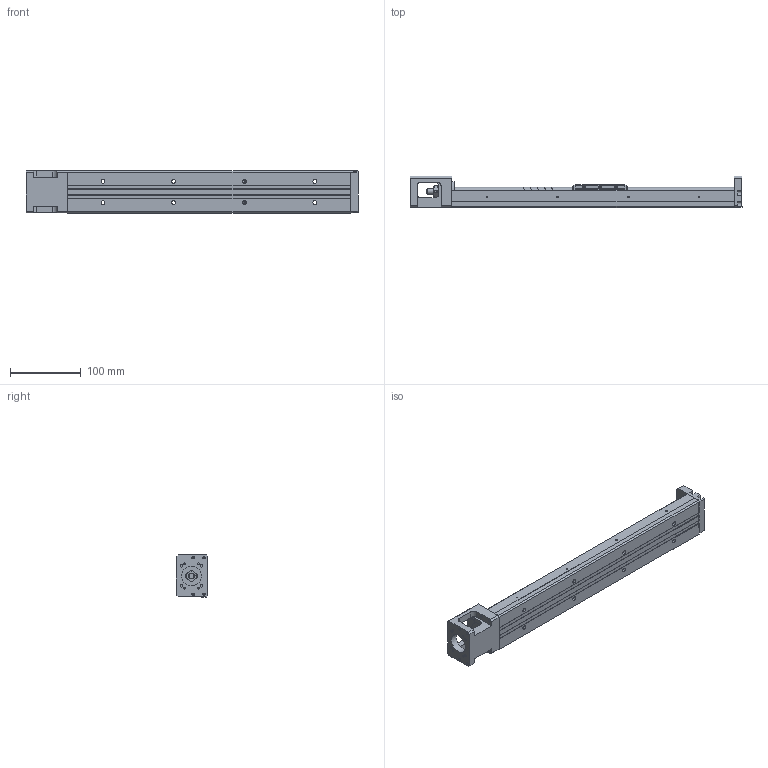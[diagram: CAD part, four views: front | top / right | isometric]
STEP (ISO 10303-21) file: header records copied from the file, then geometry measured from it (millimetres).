
FILE_DESCRIPTION(/* description */ (''),/* implementation_level */ '2;1');
FILE_NAME(/* name */ 'KP33N-400-D.stp',/* time_stamp */ '2020-06-04T14:10:03+08:00',/* author */ (''),/* organization */ (''),/* preprocessor_version */ 'ST-DEVELOPER v14',/* originating_system */ 'SIEMENS PLM Software NX 8.0',/* authorisation */ '');
FILE_SCHEMA (('AUTOMOTIVE_DESIGN { 1 0 10303 214 3 1 1 1 }'));
Length unit declared in the file: millimetre
Products named in the file (1): model1
Bounding box: 470 x 44.45 x 60 mm (x, y, z)
Volume: 526574.2 mm3; surface area: 148137.4 mm2
Topology: 5 solids, 14 shells, 657 faces, 1663 edges, 1096 vertices
Faces by surface type: plane 382, cylinder 188, bspline 31, cone 24, extrusion 21, torus 9, revolution 2
Full cylindrical faces by diameter (mm): 1.6 x4, 1.65 x4, 2.15 x4, 2.42 x4, 2.45 x4, 2.5 x12, 3 x3, 3.2 x4, 3.3 x4, 3.4 x3, 3.5 x10, 3.969 x1, 4 x6, 4.001 x1, 4.135 x4, 5.5 x8, 6 x4, 7.6 x1, 8 x5, 9.5 x8, 10.72 x3, 11.8 x2, 12 x6, 12.8 x1, 13 x2, 14 x1, 17.38 x3, 21.5 x1, 22 x2, 28 x1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
Entity records: 34007 total; most frequent: CARTESIAN_POINT 15600, DIRECTION 2968, ORIENTED_EDGE 2878, EDGE_CURVE 1439, AXIS2_PLACEMENT_3D 1056, VERTEX_POINT 1023, EDGE_LOOP 932, VECTOR 854
